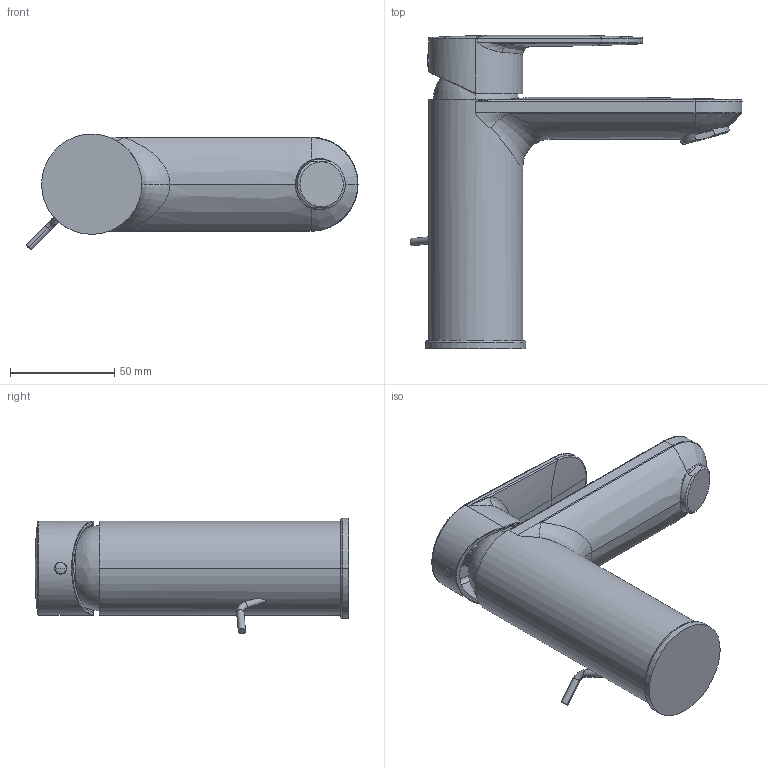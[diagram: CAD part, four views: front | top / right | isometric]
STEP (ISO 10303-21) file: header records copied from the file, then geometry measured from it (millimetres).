
FILE_DESCRIPTION((''),'2;1');
FILE_NAME('12_381_041_XXX','2018-02-19T',('ES997'),(''),'CREO PARAMETRIC BY PTC INC, 2016260','CREO PARAMETRIC BY PTC INC, 2016260','');
FILE_SCHEMA(('CONFIG_CONTROL_DESIGN'));
Length unit declared in the file: millimetre
Products named in the file (1): 12_381_041_XXX
Bounding box: 158.94 x 150.26 x 55.44 mm (x, y, z)
Volume: 300607.6 mm3; surface area: 47688.7 mm2
Topology: 1 solids, 1 shells, 144 faces, 389 edges, 250 vertices
Faces by surface type: bspline 55, cylinder 39, plane 25, torus 11, cone 8, extrusion 4, sphere 2
Entity records: 12949 total; most frequent: CARTESIAN_POINT 9873, ORIENTED_EDGE 770, DIRECTION 416, EDGE_CURVE 385, VERTEX_POINT 250, B_SPLINE_CURVE_WITH_KNOTS 225, AXIS2_PLACEMENT_3D 163, EDGE_LOOP 151
